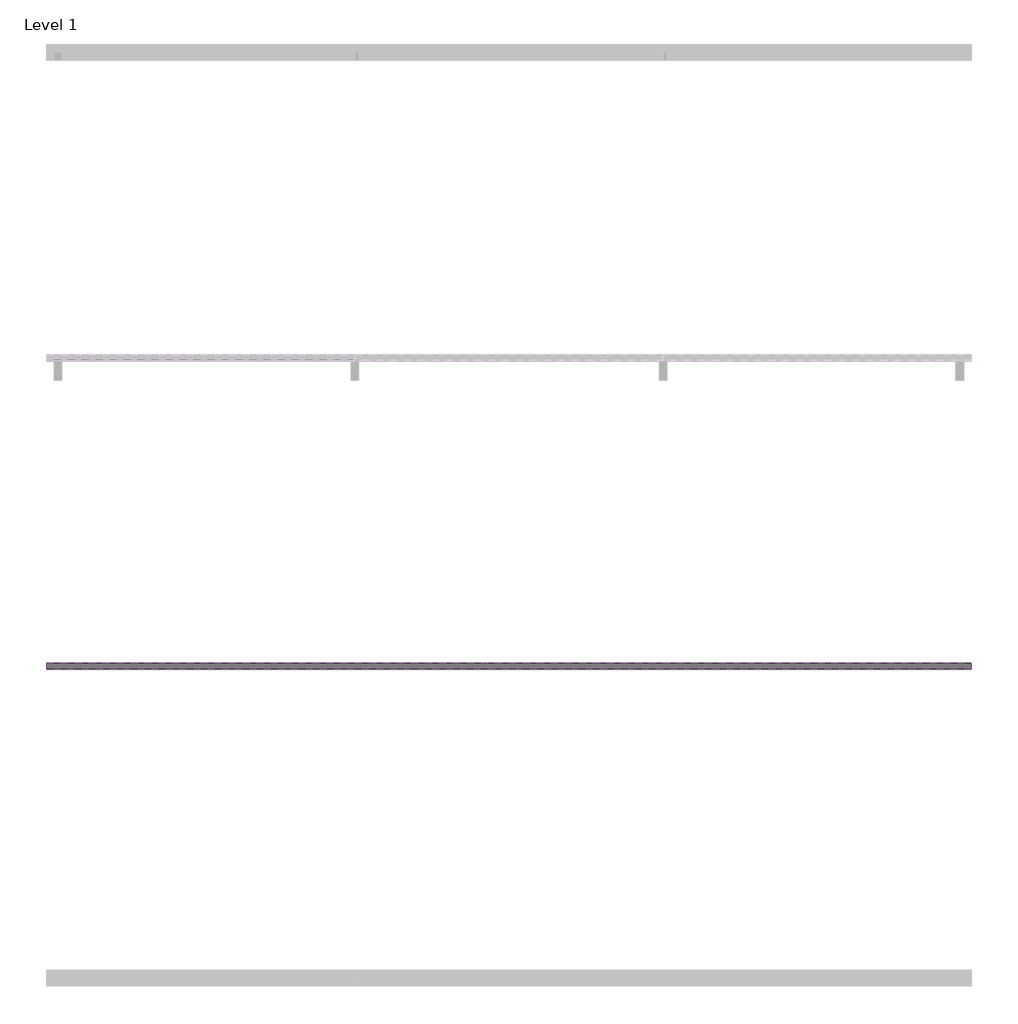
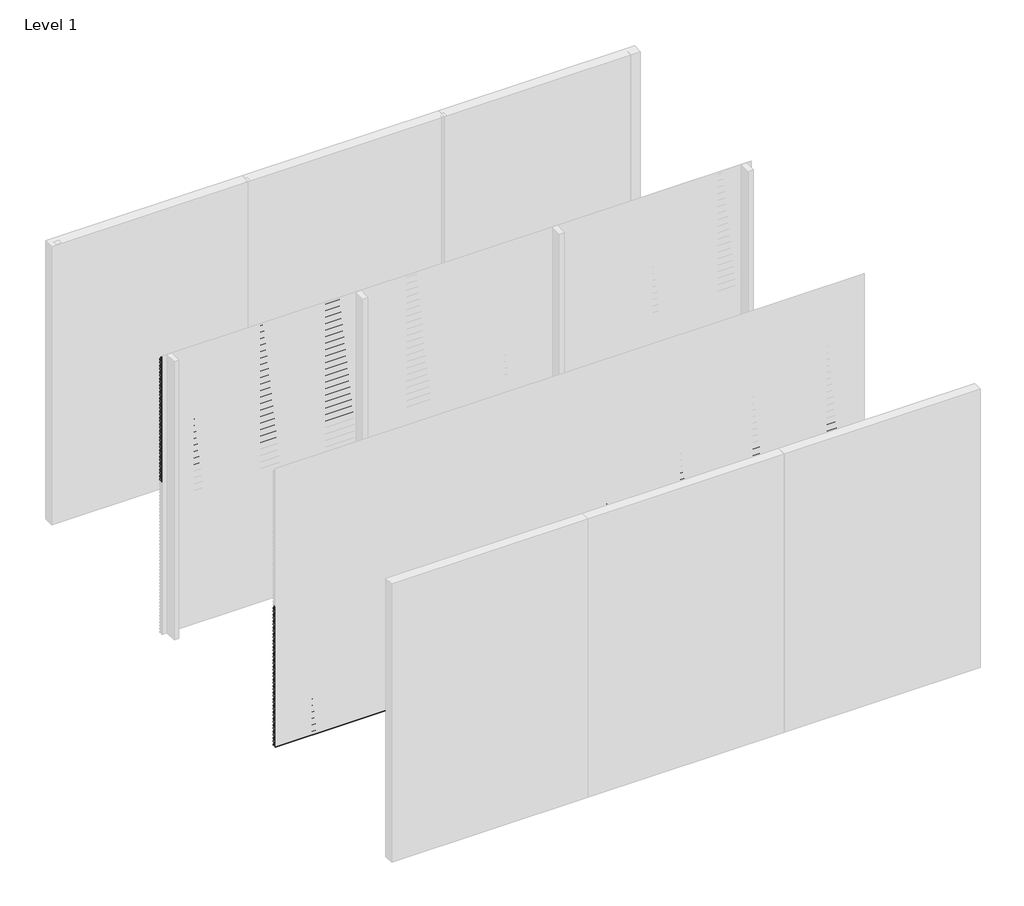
# One storey, part 2 of 17: 81 proxies.
"""IFC4 building model written with IfcOpenShell, lengths in millimetres."""

from ifc_helpers import new_model, si_unit, frame, origin, place, context, project, spatial, polyline, outline, extrude, element, save

model = new_model("IFC4")

# Units and contexts
model_context = context("Model", 3, world=origin())
ifc_project = project(units=[si_unit("LENGTHUNIT", "METRE", prefix="MILLI")], contexts=[model_context])

# Site, building, storey
site = spatial("IfcSite", under=ifc_project)
building = spatial("IfcBuilding", under=site)
storey = spatial("IfcBuildingStorey", under=building, Name="Level 1", Elevation=0.0)

# Proxies
placement = place(None, origin())
element("IfcBuildingElementProxy", 1, Name="Wall Sweeps", at=placement, inside=storey, context=model_context, shape_type="SweptSolid", body=[
    extrude(outline(polyline([(-17961.0, 2951.5), (-17961.0, 2936.5), (-17979.0, 2948.6411533), (-17997.0, 2936.5), (-17997.0, 2951.5), (-17980.0, 2962.9666448), (-17980.0, 2975.0), (-17978.0, 2975.0), (-17978.0, 2962.9666448), (-17961.0, 2951.5)])), frame((0.0, 0.0, 0.0), z_axis=(1.0, 0.0, 0.0), x_axis=(0.0, 1.0, 0.0)), (0.0, 0.0, 1.0), 2000.0000001),
])
element("IfcBuildingElementProxy", 2, Name="Wall Sweeps", at=placement, inside=storey, context=model_context, shape_type="SweptSolid", body=[
    extrude(outline(polyline([(-17961.0, 2916.5), (-17961.0, 2901.5), (-17979.0, 2913.6411533), (-17997.0, 2901.5), (-17997.0, 2916.5), (-17980.0, 2927.9666448), (-17980.0, 2940.0), (-17978.0, 2940.0), (-17978.0, 2927.9666448), (-17961.0, 2916.5)])), frame((0.0, 0.0, 0.0), z_axis=(1.0, 0.0, 0.0), x_axis=(0.0, 1.0, 0.0)), (0.0, 0.0, 1.0), 2000.0000001),
])
element("IfcBuildingElementProxy", 3, Name="Wall Sweeps", at=placement, inside=storey, context=model_context, shape_type="SweptSolid", body=[
    extrude(outline(polyline([(-17961.0, 2881.5), (-17961.0, 2866.5), (-17979.0, 2878.6411533), (-17997.0, 2866.5), (-17997.0, 2881.5), (-17980.0, 2892.9666448), (-17980.0, 2905.0), (-17978.0, 2905.0), (-17978.0, 2892.9666448), (-17961.0, 2881.5)])), frame((0.0, 0.0, 0.0), z_axis=(1.0, 0.0, 0.0), x_axis=(0.0, 1.0, 0.0)), (0.0, 0.0, 1.0), 2000.0000001),
])
element("IfcBuildingElementProxy", 4, Name="Wall Sweeps", at=placement, inside=storey, context=model_context, shape_type="SweptSolid", body=[
    extrude(outline(polyline([(-17961.0, 2846.5), (-17961.0, 2831.5), (-17979.0, 2843.6411533), (-17997.0, 2831.5), (-17997.0, 2846.5), (-17980.0, 2857.9666448), (-17980.0, 2870.0), (-17978.0, 2870.0), (-17978.0, 2857.9666448), (-17961.0, 2846.5)])), frame((0.0, 0.0, 0.0), z_axis=(1.0, 0.0, 0.0), x_axis=(0.0, 1.0, 0.0)), (0.0, 0.0, 1.0), 2000.0000001),
])
element("IfcBuildingElementProxy", 5, Name="Wall Sweeps", at=placement, inside=storey, context=model_context, shape_type="SweptSolid", body=[
    extrude(outline(polyline([(-17961.0, 2811.5), (-17961.0, 2796.5), (-17979.0, 2808.6411533), (-17997.0, 2796.5), (-17997.0, 2811.5), (-17980.0, 2822.9666448), (-17980.0, 2835.0), (-17978.0, 2835.0), (-17978.0, 2822.9666448), (-17961.0, 2811.5)])), frame((0.0, 0.0, 0.0), z_axis=(1.0, 0.0, 0.0), x_axis=(0.0, 1.0, 0.0)), (0.0, 0.0, 1.0), 2000.0000001),
])
element("IfcBuildingElementProxy", 6, Name="Wall Sweeps", at=placement, inside=storey, context=model_context, shape_type="SweptSolid", body=[
    extrude(outline(polyline([(-17961.0, 2776.5), (-17961.0, 2761.5), (-17979.0, 2773.6411533), (-17997.0, 2761.5), (-17997.0, 2776.5), (-17980.0, 2787.9666448), (-17980.0, 2800.0), (-17978.0, 2800.0), (-17978.0, 2787.9666448), (-17961.0, 2776.5)])), frame((0.0, 0.0, 0.0), z_axis=(1.0, 0.0, 0.0), x_axis=(0.0, 1.0, 0.0)), (0.0, 0.0, 1.0), 2000.0000001),
])
element("IfcBuildingElementProxy", 7, Name="Wall Sweeps", at=placement, inside=storey, context=model_context, shape_type="SweptSolid", body=[
    extrude(outline(polyline([(-17961.0, 2741.5), (-17961.0, 2726.5), (-17979.0, 2738.6411533), (-17997.0, 2726.5), (-17997.0, 2741.5), (-17980.0, 2752.9666448), (-17980.0, 2765.0), (-17978.0, 2765.0), (-17978.0, 2752.9666448), (-17961.0, 2741.5)])), frame((0.0, 0.0, 0.0), z_axis=(1.0, 0.0, 0.0), x_axis=(0.0, 1.0, 0.0)), (0.0, 0.0, 1.0), 2000.0000001),
])
element("IfcBuildingElementProxy", 8, Name="Wall Sweeps", at=placement, inside=storey, context=model_context, shape_type="SweptSolid", body=[
    extrude(outline(polyline([(-17961.0, 2706.5), (-17961.0, 2691.5), (-17979.0, 2703.6411533), (-17997.0, 2691.5), (-17997.0, 2706.5), (-17980.0, 2717.9666448), (-17980.0, 2730.0), (-17978.0, 2730.0), (-17978.0, 2717.9666448), (-17961.0, 2706.5)])), frame((0.0, 0.0, 0.0), z_axis=(1.0, 0.0, 0.0), x_axis=(0.0, 1.0, 0.0)), (0.0, 0.0, 1.0), 2000.0000001),
])
element("IfcBuildingElementProxy", 9, Name="Wall Sweeps", at=placement, inside=storey, context=model_context, shape_type="SweptSolid", body=[
    extrude(outline(polyline([(-17961.0, 2671.5), (-17961.0, 2656.5), (-17979.0, 2668.6411533), (-17997.0, 2656.5), (-17997.0, 2671.5), (-17980.0, 2682.9666448), (-17980.0, 2695.0), (-17978.0, 2695.0), (-17978.0, 2682.9666448), (-17961.0, 2671.5)])), frame((0.0, 0.0, 0.0), z_axis=(1.0, 0.0, 0.0), x_axis=(0.0, 1.0, 0.0)), (0.0, 0.0, 1.0), 2000.0000001),
])
element("IfcBuildingElementProxy", 10, Name="Wall Sweeps", at=placement, inside=storey, context=model_context, shape_type="SweptSolid", body=[
    extrude(outline(polyline([(-17961.0, 2636.5), (-17961.0, 2621.5), (-17979.0, 2633.6411533), (-17997.0, 2621.5), (-17997.0, 2636.5), (-17980.0, 2647.9666448), (-17980.0, 2660.0), (-17978.0, 2660.0), (-17978.0, 2647.9666448), (-17961.0, 2636.5)])), frame((0.0, 0.0, 0.0), z_axis=(1.0, 0.0, 0.0), x_axis=(0.0, 1.0, 0.0)), (0.0, 0.0, 1.0), 2000.0000001),
])
element("IfcBuildingElementProxy", 11, Name="Wall Sweeps", at=placement, inside=storey, context=model_context, shape_type="SweptSolid", body=[
    extrude(outline(polyline([(-17961.0, 2601.5), (-17961.0, 2586.5), (-17979.0, 2598.6411533), (-17997.0, 2586.5), (-17997.0, 2601.5), (-17980.0, 2612.9666448), (-17980.0, 2625.0), (-17978.0, 2625.0), (-17978.0, 2612.9666448), (-17961.0, 2601.5)])), frame((0.0, 0.0, 0.0), z_axis=(1.0, 0.0, 0.0), x_axis=(0.0, 1.0, 0.0)), (0.0, 0.0, 1.0), 2000.0000001),
])
element("IfcBuildingElementProxy", 12, Name="Wall Sweeps", at=placement, inside=storey, context=model_context, shape_type="SweptSolid", body=[
    extrude(outline(polyline([(-17961.0, 2566.5), (-17961.0, 2551.5), (-17979.0, 2563.6411533), (-17997.0, 2551.5), (-17997.0, 2566.5), (-17980.0, 2577.9666448), (-17980.0, 2590.0), (-17978.0, 2590.0), (-17978.0, 2577.9666448), (-17961.0, 2566.5)])), frame((0.0, 0.0, 0.0), z_axis=(1.0, 0.0, 0.0), x_axis=(0.0, 1.0, 0.0)), (0.0, 0.0, 1.0), 2000.0000001),
])
element("IfcBuildingElementProxy", 13, Name="Wall Sweeps", at=placement, inside=storey, context=model_context, shape_type="SweptSolid", body=[
    extrude(outline(polyline([(-17961.0, 2531.5), (-17961.0, 2516.5), (-17979.0, 2528.6411533), (-17997.0, 2516.5), (-17997.0, 2531.5), (-17980.0, 2542.9666448), (-17980.0, 2555.0), (-17978.0, 2555.0), (-17978.0, 2542.9666448), (-17961.0, 2531.5)])), frame((0.0, 0.0, 0.0), z_axis=(1.0, 0.0, 0.0), x_axis=(0.0, 1.0, 0.0)), (0.0, 0.0, 1.0), 2000.0000001),
])
element("IfcBuildingElementProxy", 14, Name="Wall Sweeps", at=placement, inside=storey, context=model_context, shape_type="SweptSolid", body=[
    extrude(outline(polyline([(-17961.0, 2496.5), (-17961.0, 2481.5), (-17979.0, 2493.6411533), (-17997.0, 2481.5), (-17997.0, 2496.5), (-17980.0, 2507.9666448), (-17980.0, 2520.0), (-17978.0, 2520.0), (-17978.0, 2507.9666448), (-17961.0, 2496.5)])), frame((0.0, 0.0, 0.0), z_axis=(1.0, 0.0, 0.0), x_axis=(0.0, 1.0, 0.0)), (0.0, 0.0, 1.0), 2000.0000001),
])
element("IfcBuildingElementProxy", 15, Name="Wall Sweeps", at=placement, inside=storey, context=model_context, shape_type="SweptSolid", body=[
    extrude(outline(polyline([(-17961.0, 2461.5), (-17961.0, 2446.5), (-17979.0, 2458.6411533), (-17997.0, 2446.5), (-17997.0, 2461.5), (-17980.0, 2472.9666448), (-17980.0, 2485.0), (-17978.0, 2485.0), (-17978.0, 2472.9666448), (-17961.0, 2461.5)])), frame((0.0, 0.0, 0.0), z_axis=(1.0, 0.0, 0.0), x_axis=(0.0, 1.0, 0.0)), (0.0, 0.0, 1.0), 2000.0000001),
])
element("IfcBuildingElementProxy", 16, Name="Wall Sweeps", at=placement, inside=storey, context=model_context, shape_type="SweptSolid", body=[
    extrude(outline(polyline([(-17961.0, 2426.5), (-17961.0, 2411.5), (-17979.0, 2423.6411533), (-17997.0, 2411.5), (-17997.0, 2426.5), (-17980.0, 2437.9666448), (-17980.0, 2450.0), (-17978.0, 2450.0), (-17978.0, 2437.9666448), (-17961.0, 2426.5)])), frame((0.0, 0.0, 0.0), z_axis=(1.0, 0.0, 0.0), x_axis=(0.0, 1.0, 0.0)), (0.0, 0.0, 1.0), 2000.0000001),
])
element("IfcBuildingElementProxy", 17, Name="Wall Sweeps", at=placement, inside=storey, context=model_context, shape_type="SweptSolid", body=[
    extrude(outline(polyline([(-17961.0, 2391.5), (-17961.0, 2376.5), (-17979.0, 2388.6411533), (-17997.0, 2376.5), (-17997.0, 2391.5), (-17980.0, 2402.9666448), (-17980.0, 2415.0), (-17978.0, 2415.0), (-17978.0, 2402.9666448), (-17961.0, 2391.5)])), frame((0.0, 0.0, 0.0), z_axis=(1.0, 0.0, 0.0), x_axis=(0.0, 1.0, 0.0)), (0.0, 0.0, 1.0), 2000.0000001),
])
element("IfcBuildingElementProxy", 18, Name="Wall Sweeps", at=placement, inside=storey, context=model_context, shape_type="SweptSolid", body=[
    extrude(outline(polyline([(-17961.0, 2356.5), (-17961.0, 2341.5), (-17979.0, 2353.6411533), (-17997.0, 2341.5), (-17997.0, 2356.5), (-17980.0, 2367.9666448), (-17980.0, 2380.0), (-17978.0, 2380.0), (-17978.0, 2367.9666448), (-17961.0, 2356.5)])), frame((0.0, 0.0, 0.0), z_axis=(1.0, 0.0, 0.0), x_axis=(0.0, 1.0, 0.0)), (0.0, 0.0, 1.0), 2000.0000001),
])
element("IfcBuildingElementProxy", 19, Name="Wall Sweeps", at=placement, inside=storey, context=model_context, shape_type="SweptSolid", body=[
    extrude(outline(polyline([(-17961.0, 2321.5), (-17961.0, 2306.5), (-17979.0, 2318.6411533), (-17997.0, 2306.5), (-17997.0, 2321.5), (-17980.0, 2332.9666448), (-17980.0, 2345.0), (-17978.0, 2345.0), (-17978.0, 2332.9666448), (-17961.0, 2321.5)])), frame((0.0, 0.0, 0.0), z_axis=(1.0, 0.0, 0.0), x_axis=(0.0, 1.0, 0.0)), (0.0, 0.0, 1.0), 2000.0000001),
])
element("IfcBuildingElementProxy", 20, Name="Wall Sweeps", at=placement, inside=storey, context=model_context, shape_type="SweptSolid", body=[
    extrude(outline(polyline([(-17961.0, 2286.5), (-17961.0, 2271.5), (-17979.0, 2283.6411533), (-17997.0, 2271.5), (-17997.0, 2286.5), (-17980.0, 2297.9666448), (-17980.0, 2310.0), (-17978.0, 2310.0), (-17978.0, 2297.9666448), (-17961.0, 2286.5)])), frame((0.0, 0.0, 0.0), z_axis=(1.0, 0.0, 0.0), x_axis=(0.0, 1.0, 0.0)), (0.0, 0.0, 1.0), 2000.0000001),
])
element("IfcBuildingElementProxy", 21, Name="Wall Sweeps", at=placement, inside=storey, context=model_context, shape_type="SweptSolid", body=[
    extrude(outline(polyline([(-17961.0, 2251.5), (-17961.0, 2236.5), (-17979.0, 2248.6411533), (-17997.0, 2236.5), (-17997.0, 2251.5), (-17980.0, 2262.9666448), (-17980.0, 2275.0), (-17978.0, 2275.0), (-17978.0, 2262.9666448), (-17961.0, 2251.5)])), frame((0.0, 0.0, 0.0), z_axis=(1.0, 0.0, 0.0), x_axis=(0.0, 1.0, 0.0)), (0.0, 0.0, 1.0), 2000.0000001),
])
element("IfcBuildingElementProxy", 22, Name="Wall Sweeps", at=placement, inside=storey, context=model_context, shape_type="SweptSolid", body=[
    extrude(outline(polyline([(-17961.0, 2216.5), (-17961.0, 2201.5), (-17979.0, 2213.6411533), (-17997.0, 2201.5), (-17997.0, 2216.5), (-17980.0, 2227.9666448), (-17980.0, 2240.0), (-17978.0, 2240.0), (-17978.0, 2227.9666448), (-17961.0, 2216.5)])), frame((0.0, 0.0, 0.0), z_axis=(1.0, 0.0, 0.0), x_axis=(0.0, 1.0, 0.0)), (0.0, 0.0, 1.0), 2000.0000001),
])
element("IfcBuildingElementProxy", 23, Name="Wall Sweeps", at=placement, inside=storey, context=model_context, shape_type="SweptSolid", body=[
    extrude(outline(polyline([(-17961.0, 2181.5), (-17961.0, 2166.5), (-17979.0, 2178.6411533), (-17997.0, 2166.5), (-17997.0, 2181.5), (-17980.0, 2192.9666448), (-17980.0, 2205.0), (-17978.0, 2205.0), (-17978.0, 2192.9666448), (-17961.0, 2181.5)])), frame((0.0, 0.0, 0.0), z_axis=(1.0, 0.0, 0.0), x_axis=(0.0, 1.0, 0.0)), (0.0, 0.0, 1.0), 2000.0000001),
])
element("IfcBuildingElementProxy", 24, Name="Wall Sweeps", at=placement, inside=storey, context=model_context, shape_type="SweptSolid", body=[
    extrude(outline(polyline([(-17961.0, 2146.5), (-17961.0, 2131.5), (-17979.0, 2143.6411533), (-17997.0, 2131.5), (-17997.0, 2146.5), (-17980.0, 2157.9666448), (-17980.0, 2170.0), (-17978.0, 2170.0), (-17978.0, 2157.9666448), (-17961.0, 2146.5)])), frame((0.0, 0.0, 0.0), z_axis=(1.0, 0.0, 0.0), x_axis=(0.0, 1.0, 0.0)), (0.0, 0.0, 1.0), 2000.0000001),
])
element("IfcBuildingElementProxy", 25, Name="Wall Sweeps", at=placement, inside=storey, context=model_context, shape_type="SweptSolid", body=[
    extrude(outline(polyline([(-17961.0, 2111.5), (-17961.0, 2096.5), (-17979.0, 2108.6411533), (-17997.0, 2096.5), (-17997.0, 2111.5), (-17980.0, 2122.9666448), (-17980.0, 2135.0), (-17978.0, 2135.0), (-17978.0, 2122.9666448), (-17961.0, 2111.5)])), frame((0.0, 0.0, 0.0), z_axis=(1.0, 0.0, 0.0), x_axis=(0.0, 1.0, 0.0)), (0.0, 0.0, 1.0), 2000.0000001),
])
element("IfcBuildingElementProxy", 26, Name="Wall Sweeps", at=placement, inside=storey, context=model_context, shape_type="SweptSolid", body=[
    extrude(outline(polyline([(-17961.0, 2076.5), (-17961.0, 2061.5), (-17979.0, 2073.6411533), (-17997.0, 2061.5), (-17997.0, 2076.5), (-17980.0, 2087.9666448), (-17980.0, 2100.0), (-17978.0, 2100.0), (-17978.0, 2087.9666448), (-17961.0, 2076.5)])), frame((0.0, 0.0, 0.0), z_axis=(1.0, 0.0, 0.0), x_axis=(0.0, 1.0, 0.0)), (0.0, 0.0, 1.0), 2000.0000001),
])
element("IfcBuildingElementProxy", 27, Name="Wall Sweeps", at=placement, inside=storey, context=model_context, shape_type="SweptSolid", body=[
    extrude(outline(polyline([(-17961.0, 2041.5), (-17961.0, 2026.5), (-17979.0, 2038.6411533), (-17997.0, 2026.5), (-17997.0, 2041.5), (-17980.0, 2052.9666448), (-17980.0, 2065.0), (-17978.0, 2065.0), (-17978.0, 2052.9666448), (-17961.0, 2041.5)])), frame((0.0, 0.0, 0.0), z_axis=(1.0, 0.0, 0.0), x_axis=(0.0, 1.0, 0.0)), (0.0, 0.0, 1.0), 2000.0000001),
])
element("IfcBuildingElementProxy", 28, Name="Wall Sweeps", at=placement, inside=storey, context=model_context, shape_type="SweptSolid", body=[
    extrude(outline(polyline([(-17961.0, 2006.5), (-17961.0, 1991.5), (-17979.0, 2003.6411533), (-17997.0, 1991.5), (-17997.0, 2006.5), (-17980.0, 2017.9666448), (-17980.0, 2030.0), (-17978.0, 2030.0), (-17978.0, 2017.9666448), (-17961.0, 2006.5)])), frame((0.0, 0.0, 0.0), z_axis=(1.0, 0.0, 0.0), x_axis=(0.0, 1.0, 0.0)), (0.0, 0.0, 1.0), 2000.0000001),
])
element("IfcBuildingElementProxy", 29, Name="Wall Sweeps", at=placement, inside=storey, context=model_context, shape_type="SweptSolid", body=[
    extrude(outline(polyline([(-17961.0, 1971.5), (-17961.0, 1956.5), (-17979.0, 1968.6411533), (-17997.0, 1956.5), (-17997.0, 1971.5), (-17980.0, 1982.9666448), (-17980.0, 1995.0), (-17978.0, 1995.0), (-17978.0, 1982.9666448), (-17961.0, 1971.5)])), frame((0.0, 0.0, 0.0), z_axis=(1.0, 0.0, 0.0), x_axis=(0.0, 1.0, 0.0)), (0.0, 0.0, 1.0), 2000.0000001),
])
element("IfcBuildingElementProxy", 30, Name="Wall Sweeps", at=placement, inside=storey, context=model_context, shape_type="SweptSolid", body=[
    extrude(outline(polyline([(-17961.0, 1936.5), (-17961.0, 1921.5), (-17979.0, 1933.6411533), (-17997.0, 1921.5), (-17997.0, 1936.5), (-17980.0, 1947.9666448), (-17980.0, 1960.0), (-17978.0, 1960.0), (-17978.0, 1947.9666448), (-17961.0, 1936.5)])), frame((0.0, 0.0, 0.0), z_axis=(1.0, 0.0, 0.0), x_axis=(0.0, 1.0, 0.0)), (0.0, 0.0, 1.0), 2000.0000001),
])
element("IfcBuildingElementProxy", 31, Name="Wall Sweeps", at=placement, inside=storey, context=model_context, shape_type="SweptSolid", body=[
    extrude(outline(polyline([(-17961.0, 1901.5), (-17961.0, 1886.5), (-17979.0, 1898.6411533), (-17997.0, 1886.5), (-17997.0, 1901.5), (-17980.0, 1912.9666448), (-17980.0, 1925.0), (-17978.0, 1925.0), (-17978.0, 1912.9666448), (-17961.0, 1901.5)])), frame((0.0, 0.0, 0.0), z_axis=(1.0, 0.0, 0.0), x_axis=(0.0, 1.0, 0.0)), (0.0, 0.0, 1.0), 2000.0000001),
])
element("IfcBuildingElementProxy", 32, Name="Wall Sweeps", at=placement, inside=storey, context=model_context, shape_type="SweptSolid", body=[
    extrude(outline(polyline([(-17961.0, 1866.5), (-17961.0, 1851.5), (-17979.0, 1863.6411533), (-17997.0, 1851.5), (-17997.0, 1866.5), (-17980.0, 1877.9666448), (-17980.0, 1890.0), (-17978.0, 1890.0), (-17978.0, 1877.9666448), (-17961.0, 1866.5)])), frame((0.0, 0.0, 0.0), z_axis=(1.0, 0.0, 0.0), x_axis=(0.0, 1.0, 0.0)), (0.0, 0.0, 1.0), 2000.0000001),
])
element("IfcBuildingElementProxy", 33, Name="Wall Sweeps", at=placement, inside=storey, context=model_context, shape_type="SweptSolid", body=[
    extrude(outline(polyline([(-17961.0, 1831.5), (-17961.0, 1816.5), (-17979.0, 1828.6411533), (-17997.0, 1816.5), (-17997.0, 1831.5), (-17980.0, 1842.9666448), (-17980.0, 1855.0), (-17978.0, 1855.0), (-17978.0, 1842.9666448), (-17961.0, 1831.5)])), frame((0.0, 0.0, 0.0), z_axis=(1.0, 0.0, 0.0), x_axis=(0.0, 1.0, 0.0)), (0.0, 0.0, 1.0), 2000.0000001),
])
element("IfcBuildingElementProxy", 34, Name="Wall Sweeps", at=placement, inside=storey, context=model_context, shape_type="SweptSolid", body=[
    extrude(outline(polyline([(-17961.0, 1796.5), (-17961.0, 1781.5), (-17979.0, 1793.6411533), (-17997.0, 1781.5), (-17997.0, 1796.5), (-17980.0, 1807.9666448), (-17980.0, 1820.0), (-17978.0, 1820.0), (-17978.0, 1807.9666448), (-17961.0, 1796.5)])), frame((0.0, 0.0, 0.0), z_axis=(1.0, 0.0, 0.0), x_axis=(0.0, 1.0, 0.0)), (0.0, 0.0, 1.0), 2000.0000001),
])
element("IfcBuildingElementProxy", 35, Name="Wall Sweeps", at=placement, inside=storey, context=model_context, shape_type="SweptSolid", body=[
    extrude(outline(polyline([(-17961.0, 1761.5), (-17961.0, 1746.5), (-17979.0, 1758.6411533), (-17997.0, 1746.5), (-17997.0, 1761.5), (-17980.0, 1772.9666448), (-17980.0, 1785.0), (-17978.0, 1785.0), (-17978.0, 1772.9666448), (-17961.0, 1761.5)])), frame((0.0, 0.0, 0.0), z_axis=(1.0, 0.0, 0.0), x_axis=(0.0, 1.0, 0.0)), (0.0, 0.0, 1.0), 2000.0000001),
])
element("IfcBuildingElementProxy", 36, Name="Wall Sweeps", at=placement, inside=storey, context=model_context, shape_type="SweptSolid", body=[
    extrude(outline(polyline([(-17961.0, 1726.5), (-17961.0, 1711.5), (-17979.0, 1723.6411533), (-17997.0, 1711.5), (-17997.0, 1726.5), (-17980.0, 1737.9666448), (-17980.0, 1750.0), (-17978.0, 1750.0), (-17978.0, 1737.9666448), (-17961.0, 1726.5)])), frame((0.0, 0.0, 0.0), z_axis=(1.0, 0.0, 0.0), x_axis=(0.0, 1.0, 0.0)), (0.0, 0.0, 1.0), 2000.0000001),
])
element("IfcBuildingElementProxy", 37, Name="Wall Sweeps", at=placement, inside=storey, context=model_context, shape_type="SweptSolid", body=[
    extrude(outline(polyline([(-17961.0, 1691.5), (-17961.0, 1676.5), (-17979.0, 1688.6411533), (-17997.0, 1676.5), (-17997.0, 1691.5), (-17980.0, 1702.9666448), (-17980.0, 1715.0), (-17978.0, 1715.0), (-17978.0, 1702.9666448), (-17961.0, 1691.5)])), frame((0.0, 0.0, 0.0), z_axis=(1.0, 0.0, 0.0), x_axis=(0.0, 1.0, 0.0)), (0.0, 0.0, 1.0), 2000.0000001),
])
element("IfcBuildingElementProxy", 38, Name="Wall Sweeps", at=placement, inside=storey, context=model_context, shape_type="SweptSolid", body=[
    extrude(outline(polyline([(-17961.0, 1656.5), (-17961.0, 1641.5), (-17979.0, 1653.6411533), (-17997.0, 1641.5), (-17997.0, 1656.5), (-17980.0, 1667.9666448), (-17980.0, 1680.0), (-17978.0, 1680.0), (-17978.0, 1667.9666448), (-17961.0, 1656.5)])), frame((0.0, 0.0, 0.0), z_axis=(1.0, 0.0, 0.0), x_axis=(0.0, 1.0, 0.0)), (0.0, 0.0, 1.0), 2000.0000001),
])
element("IfcBuildingElementProxy", 39, Name="Wall Sweeps", at=placement, inside=storey, context=model_context, shape_type="SweptSolid", body=[
    extrude(outline(polyline([(-19961.0, 1481.5), (-19961.0, 1466.5), (-19979.0, 1478.6411533), (-19997.0, 1466.5), (-19997.0, 1481.5), (-19980.0, 1492.9666448), (-19980.0, 1505.0), (-19978.0, 1505.0), (-19978.0, 1492.9666448), (-19961.0, 1481.5)])), frame((0.0, 0.0, 0.0), z_axis=(1.0, 0.0, 0.0), x_axis=(0.0, 1.0, 0.0)), (0.0, 0.0, 1.0), 6000.0),
])
element("IfcBuildingElementProxy", 40, Name="Wall Sweeps", at=placement, inside=storey, context=model_context, shape_type="SweptSolid", body=[
    extrude(outline(polyline([(-19961.0, 1446.5), (-19961.0, 1431.5), (-19979.0, 1443.6411533), (-19997.0, 1431.5), (-19997.0, 1446.5), (-19980.0, 1457.9666448), (-19980.0, 1470.0), (-19978.0, 1470.0), (-19978.0, 1457.9666448), (-19961.0, 1446.5)])), frame((0.0, 0.0, 0.0), z_axis=(1.0, 0.0, 0.0), x_axis=(0.0, 1.0, 0.0)), (0.0, 0.0, 1.0), 6000.0),
])
element("IfcBuildingElementProxy", 41, Name="Wall Sweeps", at=placement, inside=storey, context=model_context, shape_type="SweptSolid", body=[
    extrude(outline(polyline([(-19961.0, 1411.5), (-19961.0, 1396.5), (-19979.0, 1408.6411533), (-19997.0, 1396.5), (-19997.0, 1411.5), (-19980.0, 1422.9666448), (-19980.0, 1435.0), (-19978.0, 1435.0), (-19978.0, 1422.9666448), (-19961.0, 1411.5)])), frame((0.0, 0.0, 0.0), z_axis=(1.0, 0.0, 0.0), x_axis=(0.0, 1.0, 0.0)), (0.0, 0.0, 1.0), 6000.0),
])
element("IfcBuildingElementProxy", 42, Name="Wall Sweeps", at=placement, inside=storey, context=model_context, shape_type="SweptSolid", body=[
    extrude(outline(polyline([(-19961.0, 1376.5), (-19961.0, 1361.5), (-19979.0, 1373.6411533), (-19997.0, 1361.5), (-19997.0, 1376.5), (-19980.0, 1387.9666448), (-19980.0, 1400.0), (-19978.0, 1400.0), (-19978.0, 1387.9666448), (-19961.0, 1376.5)])), frame((0.0, 0.0, 0.0), z_axis=(1.0, 0.0, 0.0), x_axis=(0.0, 1.0, 0.0)), (0.0, 0.0, 1.0), 6000.0),
])
element("IfcBuildingElementProxy", 43, Name="Wall Sweeps", at=placement, inside=storey, context=model_context, shape_type="SweptSolid", body=[
    extrude(outline(polyline([(-19961.0, 1341.5), (-19961.0, 1326.5), (-19979.0, 1338.6411533), (-19997.0, 1326.5), (-19997.0, 1341.5), (-19980.0, 1352.9666448), (-19980.0, 1365.0), (-19978.0, 1365.0), (-19978.0, 1352.9666448), (-19961.0, 1341.5)])), frame((0.0, 0.0, 0.0), z_axis=(1.0, 0.0, 0.0), x_axis=(0.0, 1.0, 0.0)), (0.0, 0.0, 1.0), 6000.0),
])
element("IfcBuildingElementProxy", 44, Name="Wall Sweeps", at=placement, inside=storey, context=model_context, shape_type="SweptSolid", body=[
    extrude(outline(polyline([(-19961.0, 1306.5), (-19961.0, 1291.5), (-19979.0, 1303.6411533), (-19997.0, 1291.5), (-19997.0, 1306.5), (-19980.0, 1317.9666448), (-19980.0, 1330.0), (-19978.0, 1330.0), (-19978.0, 1317.9666448), (-19961.0, 1306.5)])), frame((0.0, 0.0, 0.0), z_axis=(1.0, 0.0, 0.0), x_axis=(0.0, 1.0, 0.0)), (0.0, 0.0, 1.0), 6000.0),
])
element("IfcBuildingElementProxy", 45, Name="Wall Sweeps", at=placement, inside=storey, context=model_context, shape_type="SweptSolid", body=[
    extrude(outline(polyline([(-19961.0, 1271.5), (-19961.0, 1256.5), (-19979.0, 1268.6411533), (-19997.0, 1256.5), (-19997.0, 1271.5), (-19980.0, 1282.9666448), (-19980.0, 1295.0), (-19978.0, 1295.0), (-19978.0, 1282.9666448), (-19961.0, 1271.5)])), frame((0.0, 0.0, 0.0), z_axis=(1.0, 0.0, 0.0), x_axis=(0.0, 1.0, 0.0)), (0.0, 0.0, 1.0), 6000.0),
])
element("IfcBuildingElementProxy", 46, Name="Wall Sweeps", at=placement, inside=storey, context=model_context, shape_type="SweptSolid", body=[
    extrude(outline(polyline([(-19961.0, 1236.5), (-19961.0, 1221.5), (-19979.0, 1233.6411533), (-19997.0, 1221.5), (-19997.0, 1236.5), (-19980.0, 1247.9666448), (-19980.0, 1260.0), (-19978.0, 1260.0), (-19978.0, 1247.9666448), (-19961.0, 1236.5)])), frame((0.0, 0.0, 0.0), z_axis=(1.0, 0.0, 0.0), x_axis=(0.0, 1.0, 0.0)), (0.0, 0.0, 1.0), 6000.0),
])
element("IfcBuildingElementProxy", 47, Name="Wall Sweeps", at=placement, inside=storey, context=model_context, shape_type="SweptSolid", body=[
    extrude(outline(polyline([(-19961.0, 1201.5), (-19961.0, 1186.5), (-19979.0, 1198.6411533), (-19997.0, 1186.5), (-19997.0, 1201.5), (-19980.0, 1212.9666448), (-19980.0, 1225.0), (-19978.0, 1225.0), (-19978.0, 1212.9666448), (-19961.0, 1201.5)])), frame((0.0, 0.0, 0.0), z_axis=(1.0, 0.0, 0.0), x_axis=(0.0, 1.0, 0.0)), (0.0, 0.0, 1.0), 6000.0),
])
element("IfcBuildingElementProxy", 48, Name="Wall Sweeps", at=placement, inside=storey, context=model_context, shape_type="SweptSolid", body=[
    extrude(outline(polyline([(-19961.0, 1166.5), (-19961.0, 1151.5), (-19979.0, 1163.6411533), (-19997.0, 1151.5), (-19997.0, 1166.5), (-19980.0, 1177.9666448), (-19980.0, 1190.0), (-19978.0, 1190.0), (-19978.0, 1177.9666448), (-19961.0, 1166.5)])), frame((0.0, 0.0, 0.0), z_axis=(1.0, 0.0, 0.0), x_axis=(0.0, 1.0, 0.0)), (0.0, 0.0, 1.0), 6000.0),
])
element("IfcBuildingElementProxy", 49, Name="Wall Sweeps", at=placement, inside=storey, context=model_context, shape_type="SweptSolid", body=[
    extrude(outline(polyline([(-19961.0, 1131.5), (-19961.0, 1116.5), (-19979.0, 1128.6411533), (-19997.0, 1116.5), (-19997.0, 1131.5), (-19980.0, 1142.9666448), (-19980.0, 1155.0), (-19978.0, 1155.0), (-19978.0, 1142.9666448), (-19961.0, 1131.5)])), frame((0.0, 0.0, 0.0), z_axis=(1.0, 0.0, 0.0), x_axis=(0.0, 1.0, 0.0)), (0.0, 0.0, 1.0), 6000.0),
])
element("IfcBuildingElementProxy", 50, Name="Wall Sweeps", at=placement, inside=storey, context=model_context, shape_type="SweptSolid", body=[
    extrude(outline(polyline([(-19961.0, 1096.5), (-19961.0, 1081.5), (-19979.0, 1093.6411533), (-19997.0, 1081.5), (-19997.0, 1096.5), (-19980.0, 1107.9666448), (-19980.0, 1120.0), (-19978.0, 1120.0), (-19978.0, 1107.9666448), (-19961.0, 1096.5)])), frame((0.0, 0.0, 0.0), z_axis=(1.0, 0.0, 0.0), x_axis=(0.0, 1.0, 0.0)), (0.0, 0.0, 1.0), 6000.0),
])
element("IfcBuildingElementProxy", 51, Name="Wall Sweeps", at=placement, inside=storey, context=model_context, shape_type="SweptSolid", body=[
    extrude(outline(polyline([(-19961.0, 1061.5), (-19961.0, 1046.5), (-19979.0, 1058.6411533), (-19997.0, 1046.5), (-19997.0, 1061.5), (-19980.0, 1072.9666448), (-19980.0, 1085.0), (-19978.0, 1085.0), (-19978.0, 1072.9666448), (-19961.0, 1061.5)])), frame((0.0, 0.0, 0.0), z_axis=(1.0, 0.0, 0.0), x_axis=(0.0, 1.0, 0.0)), (0.0, 0.0, 1.0), 6000.0),
])
element("IfcBuildingElementProxy", 52, Name="Wall Sweeps", at=placement, inside=storey, context=model_context, shape_type="SweptSolid", body=[
    extrude(outline(polyline([(-19961.0, 1026.5), (-19961.0, 1011.5), (-19979.0, 1023.6411533), (-19997.0, 1011.5), (-19997.0, 1026.5), (-19980.0, 1037.9666448), (-19980.0, 1050.0), (-19978.0, 1050.0), (-19978.0, 1037.9666448), (-19961.0, 1026.5)])), frame((0.0, 0.0, 0.0), z_axis=(1.0, 0.0, 0.0), x_axis=(0.0, 1.0, 0.0)), (0.0, 0.0, 1.0), 6000.0),
])
element("IfcBuildingElementProxy", 53, Name="Wall Sweeps", at=placement, inside=storey, context=model_context, shape_type="SweptSolid", body=[
    extrude(outline(polyline([(-19961.0, 991.5), (-19961.0, 976.5), (-19979.0, 988.6411533), (-19997.0, 976.5), (-19997.0, 991.5), (-19980.0, 1002.9666448), (-19980.0, 1015.0), (-19978.0, 1015.0), (-19978.0, 1002.9666448), (-19961.0, 991.5)])), frame((0.0, 0.0, 0.0), z_axis=(1.0, 0.0, 0.0), x_axis=(0.0, 1.0, 0.0)), (0.0, 0.0, 1.0), 6000.0),
])
element("IfcBuildingElementProxy", 54, Name="Wall Sweeps", at=placement, inside=storey, context=model_context, shape_type="SweptSolid", body=[
    extrude(outline(polyline([(-19961.0, 956.5), (-19961.0, 941.5), (-19979.0, 953.6411533), (-19997.0, 941.5), (-19997.0, 956.5), (-19980.0, 967.9666448), (-19980.0, 980.0), (-19978.0, 980.0), (-19978.0, 967.9666448), (-19961.0, 956.5)])), frame((0.0, 0.0, 0.0), z_axis=(1.0, 0.0, 0.0), x_axis=(0.0, 1.0, 0.0)), (0.0, 0.0, 1.0), 6000.0),
])
element("IfcBuildingElementProxy", 55, Name="Wall Sweeps", at=placement, inside=storey, context=model_context, shape_type="SweptSolid", body=[
    extrude(outline(polyline([(-19961.0, 921.5), (-19961.0, 906.5), (-19979.0, 918.6411533), (-19997.0, 906.5), (-19997.0, 921.5), (-19980.0, 932.9666448), (-19980.0, 945.0), (-19978.0, 945.0), (-19978.0, 932.9666448), (-19961.0, 921.5)])), frame((0.0, 0.0, 0.0), z_axis=(1.0, 0.0, 0.0), x_axis=(0.0, 1.0, 0.0)), (0.0, 0.0, 1.0), 6000.0),
])
element("IfcBuildingElementProxy", 56, Name="Wall Sweeps", at=placement, inside=storey, context=model_context, shape_type="SweptSolid", body=[
    extrude(outline(polyline([(-19961.0, 886.5), (-19961.0, 871.5), (-19979.0, 883.6411533), (-19997.0, 871.5), (-19997.0, 886.5), (-19980.0, 897.9666448), (-19980.0, 910.0), (-19978.0, 910.0), (-19978.0, 897.9666448), (-19961.0, 886.5)])), frame((0.0, 0.0, 0.0), z_axis=(1.0, 0.0, 0.0), x_axis=(0.0, 1.0, 0.0)), (0.0, 0.0, 1.0), 6000.0),
])
element("IfcBuildingElementProxy", 57, Name="Wall Sweeps", at=placement, inside=storey, context=model_context, shape_type="SweptSolid", body=[
    extrude(outline(polyline([(-19961.0, 851.5), (-19961.0, 836.5), (-19979.0, 848.6411533), (-19997.0, 836.5), (-19997.0, 851.5), (-19980.0, 862.9666448), (-19980.0, 875.0), (-19978.0, 875.0), (-19978.0, 862.9666448), (-19961.0, 851.5)])), frame((0.0, 0.0, 0.0), z_axis=(1.0, 0.0, 0.0), x_axis=(0.0, 1.0, 0.0)), (0.0, 0.0, 1.0), 6000.0),
])
element("IfcBuildingElementProxy", 58, Name="Wall Sweeps", at=placement, inside=storey, context=model_context, shape_type="SweptSolid", body=[
    extrude(outline(polyline([(-19961.0, 816.5), (-19961.0, 801.5), (-19979.0, 813.6411533), (-19997.0, 801.5), (-19997.0, 816.5), (-19980.0, 827.9666448), (-19980.0, 840.0), (-19978.0, 840.0), (-19978.0, 827.9666448), (-19961.0, 816.5)])), frame((0.0, 0.0, 0.0), z_axis=(1.0, 0.0, 0.0), x_axis=(0.0, 1.0, 0.0)), (0.0, 0.0, 1.0), 6000.0),
])
element("IfcBuildingElementProxy", 59, Name="Wall Sweeps", at=placement, inside=storey, context=model_context, shape_type="SweptSolid", body=[
    extrude(outline(polyline([(-19961.0, 781.5), (-19961.0, 766.5), (-19979.0, 778.6411533), (-19997.0, 766.5), (-19997.0, 781.5), (-19980.0, 792.9666448), (-19980.0, 805.0), (-19978.0, 805.0), (-19978.0, 792.9666448), (-19961.0, 781.5)])), frame((0.0, 0.0, 0.0), z_axis=(1.0, 0.0, 0.0), x_axis=(0.0, 1.0, 0.0)), (0.0, 0.0, 1.0), 6000.0),
])
element("IfcBuildingElementProxy", 60, Name="Wall Sweeps", at=placement, inside=storey, context=model_context, shape_type="SweptSolid", body=[
    extrude(outline(polyline([(-19961.0, 746.5), (-19961.0, 731.5), (-19979.0, 743.6411533), (-19997.0, 731.5), (-19997.0, 746.5), (-19980.0, 757.9666448), (-19980.0, 770.0), (-19978.0, 770.0), (-19978.0, 757.9666448), (-19961.0, 746.5)])), frame((0.0, 0.0, 0.0), z_axis=(1.0, 0.0, 0.0), x_axis=(0.0, 1.0, 0.0)), (0.0, 0.0, 1.0), 6000.0),
])
element("IfcBuildingElementProxy", 61, Name="Wall Sweeps", at=placement, inside=storey, context=model_context, shape_type="SweptSolid", body=[
    extrude(outline(polyline([(-19961.0, 711.5), (-19961.0, 696.5), (-19979.0, 708.6411533), (-19997.0, 696.5), (-19997.0, 711.5), (-19980.0, 722.9666448), (-19980.0, 735.0), (-19978.0, 735.0), (-19978.0, 722.9666448), (-19961.0, 711.5)])), frame((0.0, 0.0, 0.0), z_axis=(1.0, 0.0, 0.0), x_axis=(0.0, 1.0, 0.0)), (0.0, 0.0, 1.0), 6000.0),
])
element("IfcBuildingElementProxy", 62, Name="Wall Sweeps", at=placement, inside=storey, context=model_context, shape_type="SweptSolid", body=[
    extrude(outline(polyline([(-19961.0, 676.5), (-19961.0, 661.5), (-19979.0, 673.6411533), (-19997.0, 661.5), (-19997.0, 676.5), (-19980.0, 687.9666448), (-19980.0, 700.0), (-19978.0, 700.0), (-19978.0, 687.9666448), (-19961.0, 676.5)])), frame((0.0, 0.0, 0.0), z_axis=(1.0, 0.0, 0.0), x_axis=(0.0, 1.0, 0.0)), (0.0, 0.0, 1.0), 6000.0),
])
element("IfcBuildingElementProxy", 63, Name="Wall Sweeps", at=placement, inside=storey, context=model_context, shape_type="SweptSolid", body=[
    extrude(outline(polyline([(-19961.0, 641.5), (-19961.0, 626.5), (-19979.0, 638.6411533), (-19997.0, 626.5), (-19997.0, 641.5), (-19980.0, 652.9666448), (-19980.0, 665.0), (-19978.0, 665.0), (-19978.0, 652.9666448), (-19961.0, 641.5)])), frame((0.0, 0.0, 0.0), z_axis=(1.0, 0.0, 0.0), x_axis=(0.0, 1.0, 0.0)), (0.0, 0.0, 1.0), 6000.0),
])
element("IfcBuildingElementProxy", 64, Name="Wall Sweeps", at=placement, inside=storey, context=model_context, shape_type="SweptSolid", body=[
    extrude(outline(polyline([(-19961.0, 606.5), (-19961.0, 591.5), (-19979.0, 603.6411533), (-19997.0, 591.5), (-19997.0, 606.5), (-19980.0, 617.9666448), (-19980.0, 630.0), (-19978.0, 630.0), (-19978.0, 617.9666448), (-19961.0, 606.5)])), frame((0.0, 0.0, 0.0), z_axis=(1.0, 0.0, 0.0), x_axis=(0.0, 1.0, 0.0)), (0.0, 0.0, 1.0), 6000.0),
])
element("IfcBuildingElementProxy", 65, Name="Wall Sweeps", at=placement, inside=storey, context=model_context, shape_type="SweptSolid", body=[
    extrude(outline(polyline([(-19961.0, 571.5), (-19961.0, 556.5), (-19979.0, 568.6411533), (-19997.0, 556.5), (-19997.0, 571.5), (-19980.0, 582.9666448), (-19980.0, 595.0), (-19978.0, 595.0), (-19978.0, 582.9666448), (-19961.0, 571.5)])), frame((0.0, 0.0, 0.0), z_axis=(1.0, 0.0, 0.0), x_axis=(0.0, 1.0, 0.0)), (0.0, 0.0, 1.0), 6000.0),
])
element("IfcBuildingElementProxy", 66, Name="Wall Sweeps", at=placement, inside=storey, context=model_context, shape_type="SweptSolid", body=[
    extrude(outline(polyline([(-19961.0, 536.5), (-19961.0, 521.5), (-19979.0, 533.6411533), (-19997.0, 521.5), (-19997.0, 536.5), (-19980.0, 547.9666448), (-19980.0, 560.0), (-19978.0, 560.0), (-19978.0, 547.9666448), (-19961.0, 536.5)])), frame((0.0, 0.0, 0.0), z_axis=(1.0, 0.0, 0.0), x_axis=(0.0, 1.0, 0.0)), (0.0, 0.0, 1.0), 6000.0),
])
element("IfcBuildingElementProxy", 67, Name="Wall Sweeps", at=placement, inside=storey, context=model_context, shape_type="SweptSolid", body=[
    extrude(outline(polyline([(-19961.0, 501.5), (-19961.0, 486.5), (-19979.0, 498.6411533), (-19997.0, 486.5), (-19997.0, 501.5), (-19980.0, 512.9666448), (-19980.0, 525.0), (-19978.0, 525.0), (-19978.0, 512.9666448), (-19961.0, 501.5)])), frame((0.0, 0.0, 0.0), z_axis=(1.0, 0.0, 0.0), x_axis=(0.0, 1.0, 0.0)), (0.0, 0.0, 1.0), 6000.0),
])
element("IfcBuildingElementProxy", 68, Name="Wall Sweeps", at=placement, inside=storey, context=model_context, shape_type="SweptSolid", body=[
    extrude(outline(polyline([(-19961.0, 466.5), (-19961.0, 451.5), (-19979.0, 463.6411533), (-19997.0, 451.5), (-19997.0, 466.5), (-19980.0, 477.9666448), (-19980.0, 490.0), (-19978.0, 490.0), (-19978.0, 477.9666448), (-19961.0, 466.5)])), frame((0.0, 0.0, 0.0), z_axis=(1.0, 0.0, 0.0), x_axis=(0.0, 1.0, 0.0)), (0.0, 0.0, 1.0), 6000.0),
])
element("IfcBuildingElementProxy", 69, Name="Wall Sweeps", at=placement, inside=storey, context=model_context, shape_type="SweptSolid", body=[
    extrude(outline(polyline([(-19961.0, 431.5), (-19961.0, 416.5), (-19979.0, 428.6411533), (-19997.0, 416.5), (-19997.0, 431.5), (-19980.0, 442.9666448), (-19980.0, 455.0), (-19978.0, 455.0), (-19978.0, 442.9666448), (-19961.0, 431.5)])), frame((0.0, 0.0, 0.0), z_axis=(1.0, 0.0, 0.0), x_axis=(0.0, 1.0, 0.0)), (0.0, 0.0, 1.0), 6000.0),
])
element("IfcBuildingElementProxy", 70, Name="Wall Sweeps", at=placement, inside=storey, context=model_context, shape_type="SweptSolid", body=[
    extrude(outline(polyline([(-19961.0, 396.5), (-19961.0, 381.5), (-19979.0, 393.6411533), (-19997.0, 381.5), (-19997.0, 396.5), (-19980.0, 407.9666448), (-19980.0, 420.0), (-19978.0, 420.0), (-19978.0, 407.9666448), (-19961.0, 396.5)])), frame((0.0, 0.0, 0.0), z_axis=(1.0, 0.0, 0.0), x_axis=(0.0, 1.0, 0.0)), (0.0, 0.0, 1.0), 6000.0),
])
element("IfcBuildingElementProxy", 71, Name="Wall Sweeps", at=placement, inside=storey, context=model_context, shape_type="SweptSolid", body=[
    extrude(outline(polyline([(-19961.0, 361.5), (-19961.0, 346.5), (-19979.0, 358.6411533), (-19997.0, 346.5), (-19997.0, 361.5), (-19980.0, 372.9666448), (-19980.0, 385.0), (-19978.0, 385.0), (-19978.0, 372.9666448), (-19961.0, 361.5)])), frame((0.0, 0.0, 0.0), z_axis=(1.0, 0.0, 0.0), x_axis=(0.0, 1.0, 0.0)), (0.0, 0.0, 1.0), 6000.0),
])
element("IfcBuildingElementProxy", 72, Name="Wall Sweeps", at=placement, inside=storey, context=model_context, shape_type="SweptSolid", body=[
    extrude(outline(polyline([(-19961.0, 326.5), (-19961.0, 311.5), (-19979.0, 323.6411533), (-19997.0, 311.5), (-19997.0, 326.5), (-19980.0, 337.9666448), (-19980.0, 350.0), (-19978.0, 350.0), (-19978.0, 337.9666448), (-19961.0, 326.5)])), frame((0.0, 0.0, 0.0), z_axis=(1.0, 0.0, 0.0), x_axis=(0.0, 1.0, 0.0)), (0.0, 0.0, 1.0), 6000.0),
])
element("IfcBuildingElementProxy", 73, Name="Wall Sweeps", at=placement, inside=storey, context=model_context, shape_type="SweptSolid", body=[
    extrude(outline(polyline([(-19961.0, 291.5), (-19961.0, 276.5), (-19979.0, 288.6411533), (-19997.0, 276.5), (-19997.0, 291.5), (-19980.0, 302.9666448), (-19980.0, 315.0), (-19978.0, 315.0), (-19978.0, 302.9666448), (-19961.0, 291.5)])), frame((0.0, 0.0, 0.0), z_axis=(1.0, 0.0, 0.0), x_axis=(0.0, 1.0, 0.0)), (0.0, 0.0, 1.0), 6000.0),
])
element("IfcBuildingElementProxy", 74, Name="Wall Sweeps", at=placement, inside=storey, context=model_context, shape_type="SweptSolid", body=[
    extrude(outline(polyline([(-19961.0, 256.5), (-19961.0, 241.5), (-19979.0, 253.6411533), (-19997.0, 241.5), (-19997.0, 256.5), (-19980.0, 267.9666448), (-19980.0, 280.0), (-19978.0, 280.0), (-19978.0, 267.9666448), (-19961.0, 256.5)])), frame((0.0, 0.0, 0.0), z_axis=(1.0, 0.0, 0.0), x_axis=(0.0, 1.0, 0.0)), (0.0, 0.0, 1.0), 6000.0),
])
element("IfcBuildingElementProxy", 75, Name="Wall Sweeps", at=placement, inside=storey, context=model_context, shape_type="SweptSolid", body=[
    extrude(outline(polyline([(-19961.0, 221.5), (-19961.0, 206.5), (-19979.0, 218.6411533), (-19997.0, 206.5), (-19997.0, 221.5), (-19980.0, 232.9666448), (-19980.0, 245.0), (-19978.0, 245.0), (-19978.0, 232.9666448), (-19961.0, 221.5)])), frame((0.0, 0.0, 0.0), z_axis=(1.0, 0.0, 0.0), x_axis=(0.0, 1.0, 0.0)), (0.0, 0.0, 1.0), 6000.0),
])
element("IfcBuildingElementProxy", 76, Name="Wall Sweeps", at=placement, inside=storey, context=model_context, shape_type="SweptSolid", body=[
    extrude(outline(polyline([(-19961.0, 186.5), (-19961.0, 171.5), (-19979.0, 183.6411533), (-19997.0, 171.5), (-19997.0, 186.5), (-19980.0, 197.9666448), (-19980.0, 210.0), (-19978.0, 210.0), (-19978.0, 197.9666448), (-19961.0, 186.5)])), frame((0.0, 0.0, 0.0), z_axis=(1.0, 0.0, 0.0), x_axis=(0.0, 1.0, 0.0)), (0.0, 0.0, 1.0), 6000.0),
])
element("IfcBuildingElementProxy", 77, Name="Wall Sweeps", at=placement, inside=storey, context=model_context, shape_type="SweptSolid", body=[
    extrude(outline(polyline([(-19961.0, 151.5), (-19961.0, 136.5), (-19979.0, 148.6411533), (-19997.0, 136.5), (-19997.0, 151.5), (-19980.0, 162.9666448), (-19980.0, 175.0), (-19978.0, 175.0), (-19978.0, 162.9666448), (-19961.0, 151.5)])), frame((0.0, 0.0, 0.0), z_axis=(1.0, 0.0, 0.0), x_axis=(0.0, 1.0, 0.0)), (0.0, 0.0, 1.0), 6000.0),
])
element("IfcBuildingElementProxy", 78, Name="Wall Sweeps", at=placement, inside=storey, context=model_context, shape_type="SweptSolid", body=[
    extrude(outline(polyline([(-19961.0, 116.5), (-19961.0, 101.5), (-19979.0, 113.6411533), (-19997.0, 101.5), (-19997.0, 116.5), (-19980.0, 127.9666448), (-19980.0, 140.0), (-19978.0, 140.0), (-19978.0, 127.9666448), (-19961.0, 116.5)])), frame((0.0, 0.0, 0.0), z_axis=(1.0, 0.0, 0.0), x_axis=(0.0, 1.0, 0.0)), (0.0, 0.0, 1.0), 6000.0),
])
element("IfcBuildingElementProxy", 79, Name="Wall Sweeps", at=placement, inside=storey, context=model_context, shape_type="SweptSolid", body=[
    extrude(outline(polyline([(-19961.0, 81.5), (-19961.0, 66.5), (-19979.0, 78.6411533), (-19997.0, 66.5), (-19997.0, 81.5), (-19980.0, 92.9666448), (-19980.0, 105.0), (-19978.0, 105.0), (-19978.0, 92.9666448), (-19961.0, 81.5)])), frame((0.0, 0.0, 0.0), z_axis=(1.0, 0.0, 0.0), x_axis=(0.0, 1.0, 0.0)), (0.0, 0.0, 1.0), 6000.0),
])
element("IfcBuildingElementProxy", 80, Name="Wall Sweeps", at=placement, inside=storey, context=model_context, shape_type="SweptSolid", body=[
    extrude(outline(polyline([(-19961.0, 46.5), (-19961.0, 31.5), (-19979.0, 43.6411533), (-19997.0, 31.5), (-19997.0, 46.5), (-19980.0, 57.9666448), (-19980.0, 70.0), (-19978.0, 70.0), (-19978.0, 57.9666448), (-19961.0, 46.5)])), frame((0.0, 0.0, 0.0), z_axis=(1.0, 0.0, 0.0), x_axis=(0.0, 1.0, 0.0)), (0.0, 0.0, 1.0), 6000.0),
])
element("IfcBuildingElementProxy", 81, Name="Wall Sweeps", at=placement, inside=storey, context=model_context, shape_type="SweptSolid", body=[
    extrude(outline(polyline([(-19961.0, 11.5), (-19961.0, -3.5), (-19979.0, 8.6411533), (-19997.0, -3.5), (-19997.0, 11.5), (-19980.0, 22.9666448), (-19980.0, 35.0), (-19978.0, 35.0), (-19978.0, 22.9666448), (-19961.0, 11.5)])), frame((0.0, 0.0, 0.0), z_axis=(1.0, 0.0, 0.0), x_axis=(0.0, 1.0, 0.0)), (0.0, 0.0, 1.0), 6000.0),
])

save(model, "model.ifc")
